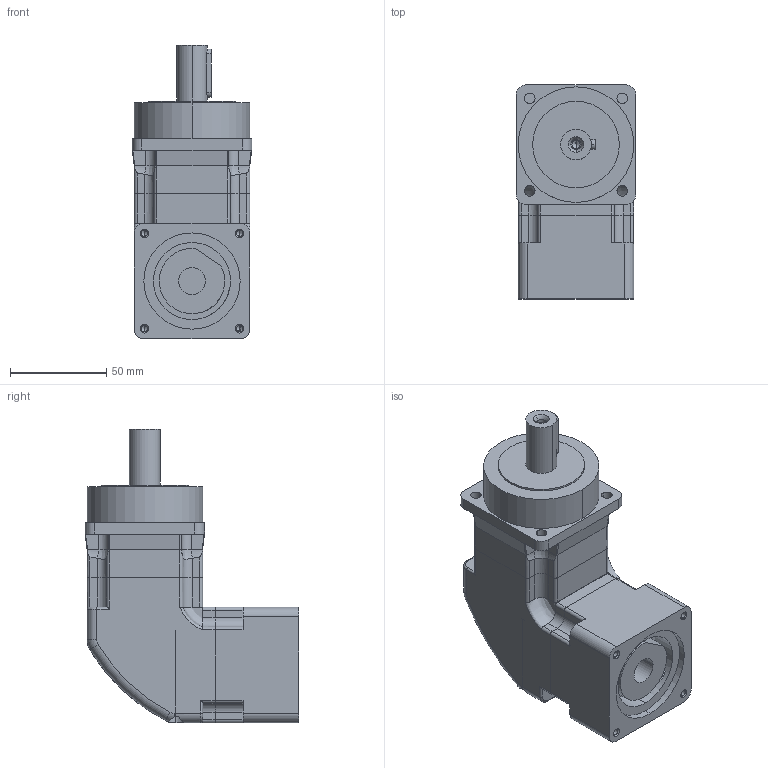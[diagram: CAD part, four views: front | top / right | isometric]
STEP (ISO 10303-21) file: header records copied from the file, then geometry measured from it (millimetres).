
FILE_DESCRIPTION (( 'STEP AP214' ), '1' );
FILE_NAME ('TRF060-1ST.STEP', '2025-04-28T07:41:04', ( 'Administrator' ), ( '' ), 'SwSTEP 2.0', 'SolidWorks 2023', '' );
FILE_SCHEMA (( 'AUTOMOTIVE_DESIGN' ));
Length unit declared in the file: millimetre
Products named in the file (5): TUB060-X-In-st_TUF060-d14; Q04012X0005; TRB060-HS; TRF060-1ST; TUF60-X-RG
Assembly tree (4 placements, depth 2):
  TRF060-1ST
    TUF60-X-RG
    TRB060-HS
    TUB060-X-In-st_TUF060-d14
    Q04012X0005
Bounding box: 62 x 111 x 152.5 mm (x, y, z)
Volume: 521862.6 mm3; surface area: 78395.5 mm2
Topology: 4 solids, 7 shells, 336 faces, 871 edges, 552 vertices
Faces by surface type: cylinder 167, plane 105, cone 36, torus 14, bspline 14
Entity records: 11864 total; most frequent: CARTESIAN_POINT 3521, DIRECTION 1721, ORIENTED_EDGE 1718, EDGE_CURVE 859, AXIS2_PLACEMENT_3D 649, VERTEX_POINT 552, VECTOR 423, LINE 423
